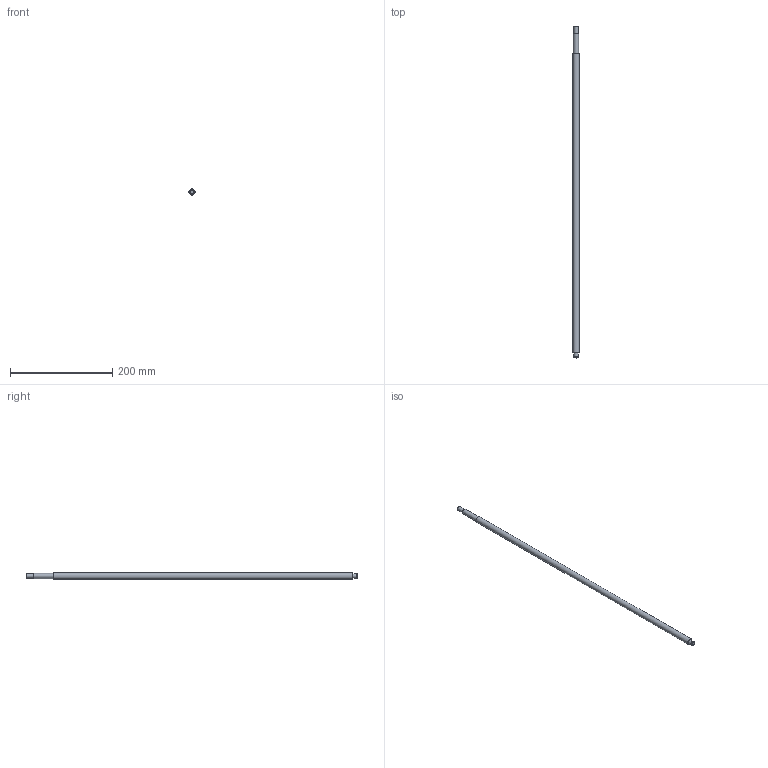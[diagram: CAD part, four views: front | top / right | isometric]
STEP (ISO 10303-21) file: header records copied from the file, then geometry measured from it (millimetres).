
FILE_DESCRIPTION(/* description */ (''),/* implementation_level */ '2;1');
FILE_NAME(/* name */ 'C:\Users\David\Desktop\stepFiles\Profilfuehrung\KUS1204x650.stp',/* time_stamp */ '2018-06-24T15:05:14+02:00',/* author */ ('David'),/* organization */ (''),/* preprocessor_version */ 'ST-DEVELOPER v17',/* originating_system */ 'Autodesk Inventor 2019',/* authorisation */ '');
FILE_SCHEMA (('AUTOMOTIVE_DESIGN { 1 0 10303 214 3 1 1 }'));
Length unit declared in the file: millimetre
Products named in the file (1): SFU1204xvariabel
Bounding box: 12 x 650 x 12 mm (x, y, z)
Volume: 70584.3 mm3; surface area: 24164.7 mm2
Topology: 1 solids, 1 shells, 15 faces, 34 edges, 26 vertices
Faces by surface type: plane 7, cylinder 6, cone 2
Full cylindrical faces by diameter (mm): 7.6 x1, 8 x3, 10 x1, 12 x1
Entity records: 493 total; most frequent: DIRECTION 92, CARTESIAN_POINT 76, ORIENTED_EDGE 68, AXIS2_PLACEMENT_3D 42, EDGE_CURVE 34, CIRCLE 26, VERTEX_POINT 26, EDGE_LOOP 20
